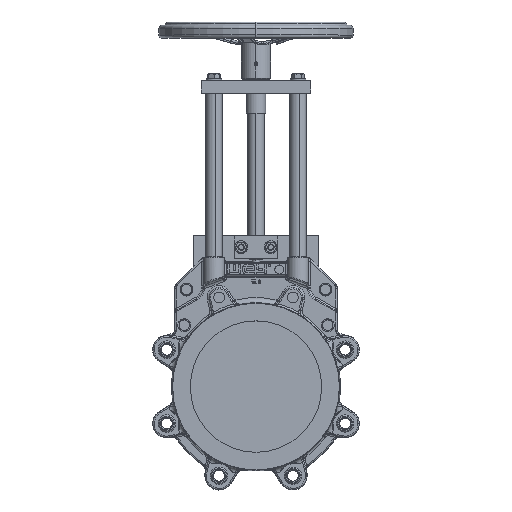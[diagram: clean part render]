
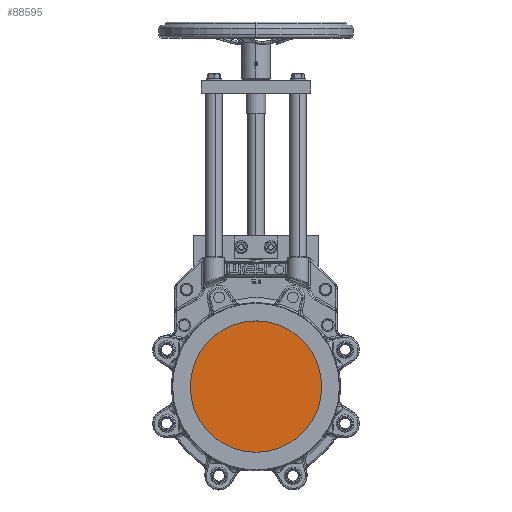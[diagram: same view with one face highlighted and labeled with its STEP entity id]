
A CAD part, top view. The second image highlights one B-rep face of the part: STEP entity #88595.
In plain terms, the highlighted planar face has unit normal (0, 0, 1).
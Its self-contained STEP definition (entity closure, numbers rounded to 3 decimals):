
#2646 = EDGE_CURVE ( 'NONE', #19917, #61588, #40295, .T. ) ;
#5560 = DIRECTION ( 'NONE',  ( 0., 0., 1. ) ) ;
#6022 = DIRECTION ( 'NONE',  ( -1., 0., 0. ) ) ;
#16815 = ORIENTED_EDGE ( 'NONE', *, *, #81592, .T. ) ;
#19917 = VERTEX_POINT ( 'NONE', #101680 ) ;
#21718 = FACE_OUTER_BOUND ( 'NONE', #40475, .T. ) ;
#22351 = CARTESIAN_POINT ( 'NONE',  ( 0., 0., -0.25 ) ) ;
#24241 = CIRCLE ( 'NONE', #109493, 101.6 ) ;
#33792 = ORIENTED_EDGE ( 'NONE', *, *, #2646, .T. ) ;
#40295 = CIRCLE ( 'NONE', #79189, 101.6 ) ;
#40475 = EDGE_LOOP ( 'NONE', ( #16815, #33792 ) ) ;
#57078 = PLANE ( 'NONE',  #104513 ) ;
#61588 = VERTEX_POINT ( 'NONE', #61619 ) ;
#61619 = CARTESIAN_POINT ( 'NONE',  ( 101.6, 0., -0.25 ) ) ;
#67012 = DIRECTION ( 'NONE',  ( 1., 0., 0. ) ) ;
#74465 = CARTESIAN_POINT ( 'NONE',  ( 96., 233., -0.25 ) ) ;
#75598 = DIRECTION ( 'NONE',  ( 0., 0., -1. ) ) ;
#79189 = AXIS2_PLACEMENT_3D ( 'NONE', #22351, #83216, #100602 ) ;
#81592 = EDGE_CURVE ( 'NONE', #61588, #19917, #24241, .T. ) ;
#83216 = DIRECTION ( 'NONE',  ( 0., 0., 1. ) ) ;
#88595 = ADVANCED_FACE ( 'NONE', ( #21718 ), #57078, .F. ) ;
#100602 = DIRECTION ( 'NONE',  ( 1., 0., 0. ) ) ;
#101221 = CARTESIAN_POINT ( 'NONE',  ( 0., 0., -0.25 ) ) ;
#101680 = CARTESIAN_POINT ( 'NONE',  ( -101.6, 0., -0.25 ) ) ;
#104513 = AXIS2_PLACEMENT_3D ( 'NONE', #74465, #75598, #6022 ) ;
#109493 = AXIS2_PLACEMENT_3D ( 'NONE', #101221, #5560, #67012 ) ;
